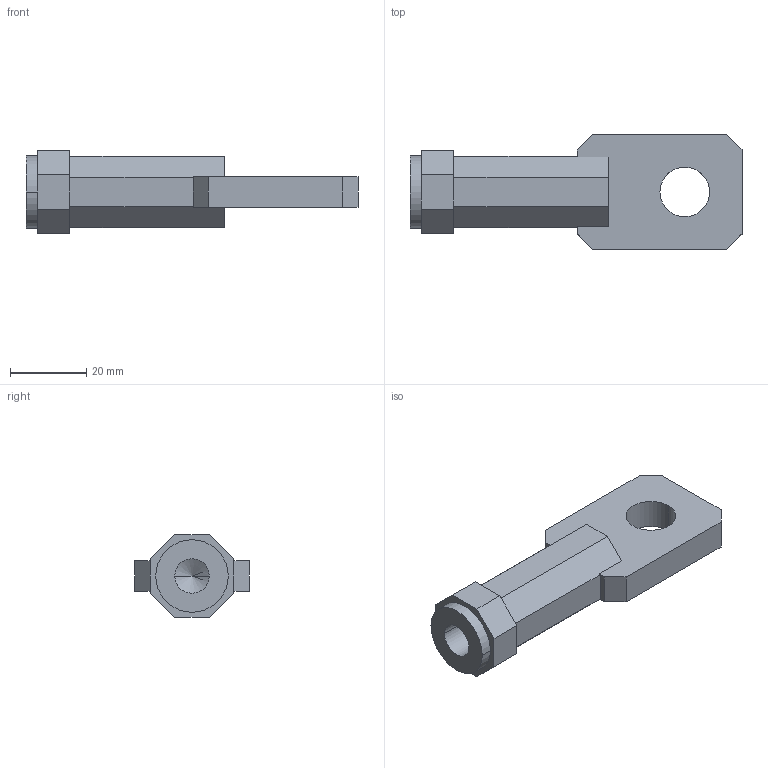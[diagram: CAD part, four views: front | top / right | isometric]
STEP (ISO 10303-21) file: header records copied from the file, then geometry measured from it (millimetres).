
FILE_DESCRIPTION((''),'2;1');
FILE_NAME('U6_SHORT_LO_REAR_CONDUCTOR_ASSY_ASM','2018-06-04T',('HHI'),(''),'PRO/ENGINEER BY PARAMETRIC TECHNOLOGY CORPORATION, 2012453','PRO/ENGINEER BY PARAMETRIC TECHNOLOGY CORPORATION, 2012453','');
FILE_SCHEMA(('CONFIG_CONTROL_DESIGN'));
Length unit declared in the file: millimetre
Products named in the file (3): U6_SHORT_LOAD_REAR_CONDUCTO_AF0; U6_REAR_BUSBAR_AF0; U6_SHORT_LO_REAR_CONDUCTOR_ASSY_ASM
Assembly tree (2 placements, depth 2):
  U6_SHORT_LO_REAR_CONDUCTOR_ASSY_ASM
    U6_SHORT_LOAD_REAR_CONDUCTO_AF0
    U6_REAR_BUSBAR_AF0
Bounding box: 87 x 30 x 21.7 mm (x, y, z)
Volume: 22043.5 mm3; surface area: 8655.5 mm2
Topology: 2 solids, 2 shells, 78 faces, 202 edges, 133 vertices
Faces by surface type: plane 70, cylinder 6, cone 2
Entity records: 2420 total; most frequent: CARTESIAN_POINT 416, ORIENTED_EDGE 400, DIRECTION 378, EDGE_CURVE 200, VECTOR 188, LINE 188, VERTEX_POINT 133, AXIS2_PLACEMENT_3D 95
